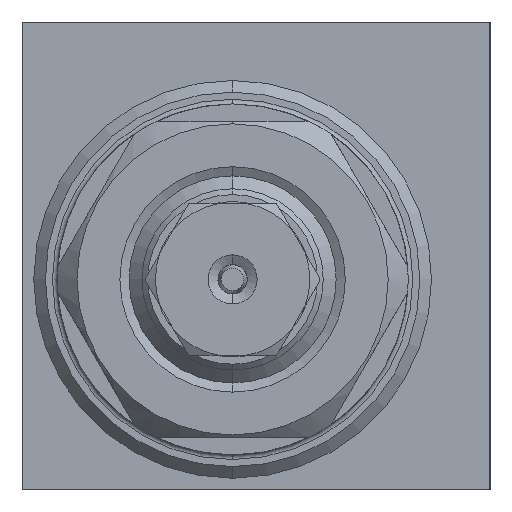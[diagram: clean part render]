
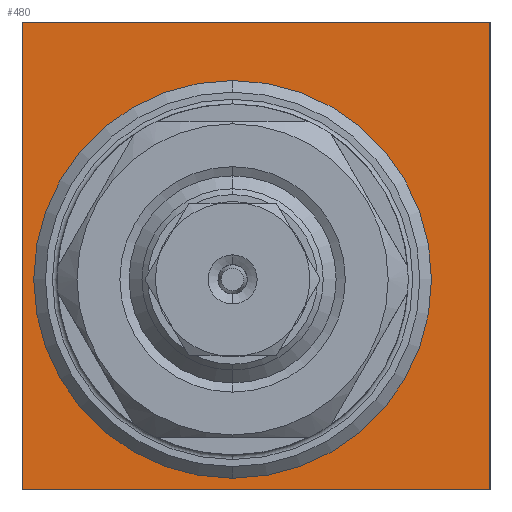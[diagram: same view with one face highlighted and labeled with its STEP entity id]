
A CAD part, left-side view. The second image highlights one B-rep face of the part: STEP entity #480.
In plain terms, the highlighted planar face has unit normal (-1, 0, 0).
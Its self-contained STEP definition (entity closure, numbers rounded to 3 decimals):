
#480 = ADVANCED_FACE ( 'NONE', ( #15550, #11984 ), #2519, .T. ) ;
#1499 = EDGE_CURVE ( 'NONE', #12687, #12839, #11259, .T. ) ;
#1703 = VECTOR ( 'NONE', #5601, 1000. ) ;
#2206 = CARTESIAN_POINT ( 'NONE',  ( 0., 2., 15. ) ) ;
#2519 = PLANE ( 'NONE',  #14673 ) ;
#2531 = DIRECTION ( 'NONE',  ( 0., -1., 0. ) ) ;
#2586 = CARTESIAN_POINT ( 'NONE',  ( 0., 2., -2. ) ) ;
#2676 = DIRECTION ( 'NONE',  ( -1., 0., 0. ) ) ;
#2683 = CARTESIAN_POINT ( 'NONE',  ( 0., 20., -20. ) ) ;
#2725 = DIRECTION ( 'NONE',  ( 0., 0., 1. ) ) ;
#2729 = DIRECTION ( 'NONE',  ( 0., 0., 1. ) ) ;
#3603 = VERTEX_POINT ( 'NONE', #9007 ) ;
#3834 = CARTESIAN_POINT ( 'NONE',  ( 0., -20., 20. ) ) ;
#4562 = AXIS2_PLACEMENT_3D ( 'NONE', #2586, #15473, #2725 ) ;
#4595 = ORIENTED_EDGE ( 'NONE', *, *, #1499, .F. ) ;
#4659 = EDGE_CURVE ( 'NONE', #12839, #12687, #11932, .T. ) ;
#4826 = EDGE_CURVE ( 'NONE', #16188, #11857, #11473, .T. ) ;
#4829 = DIRECTION ( 'NONE',  ( -1., 0., 0. ) ) ;
#4897 = ORIENTED_EDGE ( 'NONE', *, *, #4826, .F. ) ;
#5040 = EDGE_CURVE ( 'NONE', #10708, #16188, #15402, .T. ) ;
#5251 = EDGE_CURVE ( 'NONE', #11857, #3603, #12880, .T. ) ;
#5302 = VECTOR ( 'NONE', #2531, 1000. ) ;
#5601 = DIRECTION ( 'NONE',  ( 0., 0., -1. ) ) ;
#6217 = EDGE_LOOP ( 'NONE', ( #8322, #4897, #11605, #13240 ) ) ;
#6218 = EDGE_CURVE ( 'NONE', #3603, #10708, #9329, .T. ) ;
#6563 = AXIS2_PLACEMENT_3D ( 'NONE', #12464, #4829, #13758 ) ;
#7433 = DIRECTION ( 'NONE',  ( 0., 0., 1. ) ) ;
#8322 = ORIENTED_EDGE ( 'NONE', *, *, #5251, .F. ) ;
#8348 = DIRECTION ( 'NONE',  ( 0., 1., 0. ) ) ;
#8556 = EDGE_LOOP ( 'NONE', ( #8681, #4595 ) ) ;
#8681 = ORIENTED_EDGE ( 'NONE', *, *, #4659, .F. ) ;
#9007 = CARTESIAN_POINT ( 'NONE',  ( 0., 20., -20. ) ) ;
#9329 = LINE ( 'NONE', #15059, #16087 ) ;
#9391 = CARTESIAN_POINT ( 'NONE',  ( 0., 20., 20. ) ) ;
#9477 = CARTESIAN_POINT ( 'NONE',  ( 0., -20., 20. ) ) ;
#10708 = VERTEX_POINT ( 'NONE', #9391 ) ;
#10934 = CARTESIAN_POINT ( 'NONE',  ( 0., -20., -20. ) ) ;
#11005 = CARTESIAN_POINT ( 'NONE',  ( 0., 2., -19. ) ) ;
#11259 = CIRCLE ( 'NONE', #4562, 17. ) ;
#11473 = LINE ( 'NONE', #13307, #1703 ) ;
#11605 = ORIENTED_EDGE ( 'NONE', *, *, #5040, .F. ) ;
#11857 = VERTEX_POINT ( 'NONE', #13550 ) ;
#11932 = CIRCLE ( 'NONE', #6563, 17. ) ;
#11984 = FACE_OUTER_BOUND ( 'NONE', #6217, .T. ) ;
#12464 = CARTESIAN_POINT ( 'NONE',  ( 0., 2., -2. ) ) ;
#12687 = VERTEX_POINT ( 'NONE', #11005 ) ;
#12839 = VERTEX_POINT ( 'NONE', #2206 ) ;
#12880 = LINE ( 'NONE', #10934, #15764 ) ;
#13240 = ORIENTED_EDGE ( 'NONE', *, *, #6218, .F. ) ;
#13307 = CARTESIAN_POINT ( 'NONE',  ( 0., -20., 20. ) ) ;
#13550 = CARTESIAN_POINT ( 'NONE',  ( 0., -20., -20. ) ) ;
#13758 = DIRECTION ( 'NONE',  ( 0., 0., 1. ) ) ;
#14673 = AXIS2_PLACEMENT_3D ( 'NONE', #2683, #2676, #2729 ) ;
#15059 = CARTESIAN_POINT ( 'NONE',  ( 0., 20., 20. ) ) ;
#15402 = LINE ( 'NONE', #3834, #5302 ) ;
#15473 = DIRECTION ( 'NONE',  ( -1., 0., 0. ) ) ;
#15550 = FACE_BOUND ( 'NONE', #8556, .T. ) ;
#15764 = VECTOR ( 'NONE', #8348, 1000. ) ;
#16087 = VECTOR ( 'NONE', #7433, 1000. ) ;
#16188 = VERTEX_POINT ( 'NONE', #9477 ) ;
